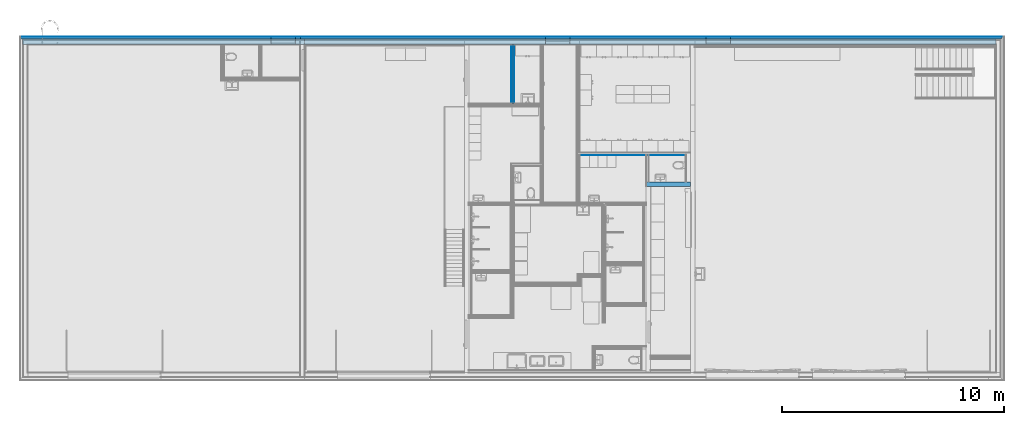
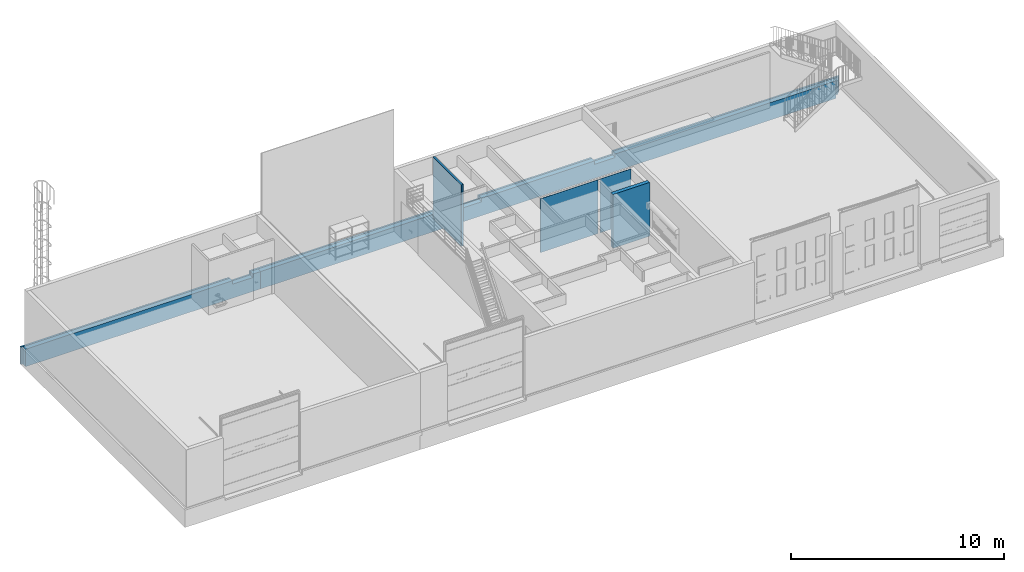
# One storey, part 18 of 67: 11 building element parts, 5 elements without a shape of their own.
"""IFC4 building model written with IfcOpenShell, lengths in millimetres."""

import ifcopenshell
import ifcopenshell.guid

model = None  # the IFC model being written
_history = None  # IfcOwnerHistory: only IFC2X3 demands one
_inside = {}  # id of a spatial element -> (the spatial element, [elements in it])
_under = {}  # id of a project, library or spatial element -> (it, [spatial elements below it])
_declared = {}  # id of a project -> (the project, [libraries it declares])
_typed = {}  # id of a type object -> (the type object, [elements of that type])
_made_of = {}  # id of a material, layer set ... -> (it, [elements and type objects made of it])


def new_model(schema):
    """Start an empty IFC model of exactly this schema.

    Asked for "IFC4X3", IfcOpenShell would pick the latest addendum, in which some entities
    have other attributes; the version numbers below select the first issue.
    IFC2X3 requires an IfcOwnerHistory on every rooted entity: one is made here for all.
    """
    global model, _history
    if schema == "IFC4X3":
        model = ifcopenshell.file(schema_version=(4, 3, 0, 0))
    else:
        model = ifcopenshell.file(schema=schema)
    _inside.clear()
    _under.clear()
    _declared.clear()
    _typed.clear()
    _made_of.clear()
    _history = None
    if model.schema == "IFC2X3":
        org = make("IfcOrganization", Name="unknown")
        user = make(
            "IfcPersonAndOrganization",
            ThePerson=make("IfcPerson", FamilyName="unknown"),
            TheOrganization=org,
        )
        app = make(
            "IfcApplication",
            ApplicationDeveloper=org,
            Version="unknown",
            ApplicationFullName="unknown",
            ApplicationIdentifier="unknown",
        )
        _history = make(
            "IfcOwnerHistory",
            OwningUser=user,
            OwningApplication=app,
            ChangeAction="ADDED",
            CreationDate=0,
        )
    return model


def make(cls, **values):
    """One entity of the class cls with the attributes given. An attribute that is None is left unset."""
    return model.create_entity(
        cls, **{name: value for name, value in values.items() if value is not None}
    )


def entity(cls, *values):
    """Any entity or typed value of the class cls, its attributes in the order of the schema. None: left unset."""
    e = model.create_entity(cls)
    for i, value in enumerate(values):
        if value is not None:
            e[i] = value
    return e


def rooted(cls, **values):
    """An entity with a GlobalId (a new one), such as an element, a storey or a relation."""
    return make(cls, GlobalId=ifcopenshell.guid.new(), OwnerHistory=_history, **values)


def si_unit(unit_type, name, prefix=None):
    """IfcSIUnit, for example si_unit("LENGTHUNIT", "METRE", prefix="MILLI")."""
    return make("IfcSIUnit", UnitType=unit_type, Prefix=prefix, Name=name)


def converted_unit(unit_type, name, factor, base, dimensions=None, offset=None):
    """IfcConversionBasedUnit, such as the inch: factor (a typed value) times the base unit."""
    return make(
        "IfcConversionBasedUnit"
        if offset is None
        else "IfcConversionBasedUnitWithOffset",
        ConversionOffset=offset,
        Dimensions=None
        if dimensions is None
        else entity("IfcDimensionalExponents", *dimensions),
        UnitType=unit_type,
        Name=name,
        ConversionFactor=make(
            "IfcMeasureWithUnit", ValueComponent=factor, UnitComponent=base
        ),
    )


def assignment(units):
    """IfcUnitAssignment: the units of a project."""
    return None if units is None else make("IfcUnitAssignment", Units=units)


def point(xyz):
    """IfcCartesianPoint."""
    return None if xyz is None else make("IfcCartesianPoint", Coordinates=xyz)


def direction(xyz):
    """IfcDirection."""
    return None if xyz is None else make("IfcDirection", DirectionRatios=xyz)


def frame(location, z_axis=None, x_axis=None):
    """IfcAxis2Placement3D, a coordinate frame: its origin and axes. An axis left out is left unset."""
    return make(
        "IfcAxis2Placement3D",
        Location=point(location),
        Axis=direction(z_axis),
        RefDirection=direction(x_axis),
    )


def origin():
    """The frame at (0, 0, 0) with its axes left unset."""
    return frame((0.0, 0.0, 0.0))


def place(relative_to, where):
    """IfcLocalPlacement: puts the frame where relative to a parent placement (None: the world)."""
    return make(
        "IfcLocalPlacement", PlacementRelTo=relative_to, RelativePlacement=where
    )


def context(
    kind, dimensions, precision=None, world=None, true_north=None, identifier=None
):
    """IfcGeometricRepresentationContext, for example the 3D "Model" context."""
    return make(
        "IfcGeometricRepresentationContext",
        ContextIdentifier=identifier,
        ContextType=kind,
        CoordinateSpaceDimension=dimensions,
        Precision=precision,
        WorldCoordinateSystem=world,
        TrueNorth=true_north,
    )


def subcontext(parent, identifier, kind, view, scale=None):
    """IfcGeometricRepresentationSubContext, for example "Body" below "Model"."""
    return make(
        "IfcGeometricRepresentationSubContext",
        ContextIdentifier=identifier,
        ContextType=kind,
        ParentContext=parent,
        TargetScale=scale,
        TargetView=view,
    )


def project(units=None, contexts=None):
    """IfcProject with its units and contexts."""
    return rooted(
        "IfcProject",
        Name="project",
        RepresentationContexts=contexts,
        UnitsInContext=assignment(units),
    )


def spatial(cls, under=None, at=None, **own):
    """A site, building, storey or space (cls), placed at a placement, below another one or the project."""
    s = rooted(cls, ObjectPlacement=at, **own)
    if under is not None:
        _under.setdefault(under.id(), (under, []))[1].append(s)
    return s


def point_list(points):
    """IfcCartesianPointList2D or 3D."""
    cls = (
        "IfcCartesianPointList2D" if len(points[0]) == 2 else "IfcCartesianPointList3D"
    )
    return make(cls, CoordList=points)


def polygons(points, faces, closed=None, point_numbers=None):
    """IfcPolygonalFaceSet: a face is its outer loop, then its inner loops; points numbered from 1."""
    made = []
    for loops in faces:
        if len(loops) == 1:
            made.append(make("IfcIndexedPolygonalFace", CoordIndex=loops[0]))
        else:
            made.append(
                make(
                    "IfcIndexedPolygonalFaceWithVoids",
                    CoordIndex=loops[0],
                    InnerCoordIndices=loops[1:],
                )
            )
    return make(
        "IfcPolygonalFaceSet",
        Coordinates=point_list(points),
        Closed=closed,
        Faces=made,
        PnIndex=point_numbers,
    )


def shape(context_of_items, identifier, shape_type, items):
    """IfcShapeRepresentation: the items that make up one representation, for example the "Body"."""
    return make(
        "IfcShapeRepresentation",
        ContextOfItems=context_of_items,
        RepresentationIdentifier=identifier,
        RepresentationType=shape_type,
        Items=items,
    )


def material(Name=None, Category=None):
    """IfcMaterial."""
    return make("IfcMaterial", Name=Name, Category=Category)


def made_of(thing, what):
    """Note that an element or type object is made of a material, layer set ...; save() writes the relation."""
    if what is not None:
        _made_of.setdefault(what.id(), (what, []))[1].append(thing)
    return thing


def type_object(cls, material=None, **own):
    """A type object (cls), such as IfcWallType, which elements share."""
    return made_of(rooted(cls, **own), material)


def element(
    cls,
    number,
    at=None,
    inside=None,
    cuts=None,
    type_object=None,
    material=None,
    context=None,
    identifier="Body",
    shape_type=None,
    held_by="IfcProductDefinitionShape",
    body=None,
    shapes=None,
    **own,
):
    """One element of the class cls, such as IfcWall. Its Tag is "e" and its number.

    at: its placement. inside: the storey or other place that contains it. cuts: it is an
    opening in that element (IfcRelVoidsElement). A single representation is given by context,
    identifier, shape_type and body (its items); several are given by shapes. held_by: the class
    of the entity that holds the representations. save() writes the other relations.
    """
    e = rooted(cls, Tag="e%d" % number, ObjectPlacement=at, **own)
    if body is not None:
        shapes = [shape(context, identifier, shape_type, body)]
    if shapes is not None:
        e.Representation = make(held_by, Representations=shapes)
    if inside is not None:
        _inside.setdefault(inside.id(), (inside, []))[1].append(e)
    if cuts is not None:
        rooted(
            "IfcRelVoidsElement", RelatingBuildingElement=cuts, RelatedOpeningElement=e
        )
    if type_object is not None:
        _typed.setdefault(type_object.id(), (type_object, []))[1].append(e)
    return made_of(e, material)


def aggregate(whole, parts):
    """IfcRelAggregates: a whole, such as a stair, and the parts it consists of."""
    return rooted("IfcRelAggregates", RelatingObject=whole, RelatedObjects=parts)


def save(model, path):
    """Write the relations noted so far, then the file.

    IfcRelAggregates (storeys below a building ...), IfcRelContainedInSpatialStructure (elements
    in a storey), IfcRelDefinesByType, IfcRelAssociatesMaterial and IfcRelDeclares: one each for
    every whole, place, type object, material and project.
    """
    for whole, parts in _under.values():
        aggregate(whole, parts)
    for where, things in _inside.values():
        rooted(
            "IfcRelContainedInSpatialStructure",
            RelatedElements=things,
            RelatingStructure=where,
        )
    for kind, things in _typed.values():
        rooted("IfcRelDefinesByType", RelatedObjects=things, RelatingType=kind)
    for what, things in _made_of.values():
        rooted("IfcRelAssociatesMaterial", RelatedObjects=things, RelatingMaterial=what)
    for by, libraries in _declared.values():
        rooted("IfcRelDeclares", RelatingContext=by, RelatedDefinitions=libraries)
    model.write(path)


model = new_model("IFC4")

# Units and contexts
model_context = context("Model", 3, precision=0.01, world=origin(), true_north=direction((0.0, 1.0)))
body_context = subcontext(model_context, "Body", "Model", "MODEL_VIEW")
ifc_project = project(units=[si_unit("LENGTHUNIT", "METRE", prefix="MILLI"), si_unit("AREAUNIT", "SQUARE_METRE"), si_unit("VOLUMEUNIT", "CUBIC_METRE"), converted_unit("PLANEANGLEUNIT", "DEGREE", entity("IfcPlaneAngleMeasure", 0.017453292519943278), si_unit("PLANEANGLEUNIT", "RADIAN"), dimensions=[0, 0, 0, 0, 0, 0, 0])], contexts=[model_context])

# Site, building, storey
site_placement = place(None, origin())
site = spatial("IfcSite", under=ifc_project, at=site_placement, Name="Tomtens navn", CompositionType="ELEMENT")
building_placement = place(site_placement, origin())
building = spatial("IfcBuilding", under=site, at=building_placement, Name="Byggets navn", CompositionType="ELEMENT")
storey_placement = place(building_placement, origin())
storey = spatial("IfcBuildingStorey", under=building, at=storey_placement, Name="Level 01", CompositionType="ELEMENT", Elevation=2.1993652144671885e-25)

# Wall, building element part
wall_type_1 = type_object("IfcWallType", Name="Basic Wall:IV03 Gips Stender Forestia 120mm", PredefinedType="STANDARD")
wall_1_placement = place(storey_placement, frame((68411.85352810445, 17930.966456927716, 0.0), z_axis=(0.0, 0.0, 1.0), x_axis=(-1.0, 0.0, 0.0)))
wall_1 = element("IfcWall", 1, at=wall_1_placement, inside=storey, type_object=wall_type_1, Name="Basic Wall:IV03 Gips Stender Forestia 120mm", PredefinedType="NOTDEFINED")
ifc_material_1 = material(Name="Gipsplater", Category="NOR ^ Gips")
building_element_part_1_placement = place(wall_1_placement, frame((4917.0, 60.5, 0.0)))
building_element_part_1 = element("IfcBuildingElementPart", 2, at=building_element_part_1_placement, material=ifc_material_1, Name="Gipsplater", context=body_context, shape_type="Tessellation", body=[
    polygons([(-4.845183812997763e-12, -12.999999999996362, 7.331217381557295e-26), (-4.845183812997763e-12, -12.999999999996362, 3087.999999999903), (-4916.99999999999, -12.999999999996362, 3087.999999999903), (-4916.99999999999, -12.999999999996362, 7.331217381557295e-26), (-3235.9999999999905, -12.999999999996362, 7.331217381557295e-26), (-3235.9999999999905, -12.999999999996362, 3079.9999999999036), (-3141.000000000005, -12.999999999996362, 3079.9999999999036), (-3141.000000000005, -12.999999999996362, 7.331217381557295e-26), (-4916.99999999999, 0.0, 2.1993652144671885e-25), (-4916.99999999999, 0.0, 3087.999999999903), (-4.841661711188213e-12, 3.637978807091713e-12, 3087.999999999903), (-4.841661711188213e-12, 3.637978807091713e-12, 3079.9999999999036), (-4.841661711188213e-12, 3.637978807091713e-12, 2.1993652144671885e-25), (-120.99999999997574, 3.637978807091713e-12, 2.1993652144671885e-25), (-3127.9999999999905, 0.0, 2.1993652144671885e-25), (-3141.000000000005, 0.0, 2.1993652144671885e-25), (-3141.000000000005, 0.0, 3079.9999999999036), (-3235.9999999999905, 0.0, 3079.9999999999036), (-3235.9999999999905, 0.0, 2.1993652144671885e-25), (-3248.9999999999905, 0.0, 2.1993652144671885e-25)], [[[1, 2, 3, 4, 5, 6, 7, 8]], [[9, 10, 11, 12, 13, 14, 15, 16, 17, 18, 19, 20]], [[9, 20, 19, 5, 4]], [[3, 2, 11, 10]], [[4, 3, 10, 9]], [[2, 1, 13, 12, 11]], [[7, 17, 16, 8]], [[17, 7, 6, 18]], [[18, 6, 5, 19]], [[14, 13, 1, 8, 16, 15]]], closed=True),
])
aggregate(wall_1, [building_element_part_1])

# Wall, building element parts
wall_type_2 = type_object("IfcWallType", Name="Basic Wall:RIB YV-Betong_250mm+100iso", PredefinedType="STANDARD")
wall_2_placement = place(storey_placement, frame((82422.85352810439, 23037.466456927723, -800.0), z_axis=(0.0, 0.0, 1.0), x_axis=(-1.0, 0.0, 0.0)))
wall_2 = element("IfcWall", 3, at=wall_2_placement, inside=storey, type_object=wall_type_2, Name="Basic Wall:RIB YV-Betong_250mm+100iso", PredefinedType="NOTDEFINED")
ifc_material_2 = material(Name="NO_Maling - mørk grå", Category="Overflatebehandling")
building_element_part_2_placement = place(wall_2_placement, frame((31410.0, -174.0, 0.0)))
building_element_part_2 = element("IfcBuildingElementPart", 4, at=building_element_part_2_placement, material=ifc_material_2, Name="NO_Maling - mørk grå", context=body_context, shape_type="Tessellation", body=[
    polygons([(-18310.000000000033, 3.637978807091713e-12, 800.0), (-19420.00000000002, 3.637978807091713e-12, 800.0), (-19420.00000000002, -1.999999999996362, 800.0), (-18310.000000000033, -1.999999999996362, 800.0), (-200.0000000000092, -1.999999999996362, 0.0), (-31759.99999999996, -1.999999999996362, 0.0), (-31759.99999999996, 3.637978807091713e-12, 0.0), (-200.0000000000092, 3.637978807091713e-12, 0.0), (-200.0000000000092, 3.637978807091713e-12, 800.0), (-200.0000000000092, -1.999999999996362, 800.0), (-31759.99999999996, 3.637978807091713e-12, 800.0), (-31759.99999999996, 3.637978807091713e-12, 1000.0000000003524), (-19420.00000000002, 3.637978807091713e-12, 1000.0000000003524), (-18310.000000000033, 3.637978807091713e-12, 1000.0000000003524), (-12170.000000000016, 3.637978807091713e-12, 1000.0000000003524), (-12170.000000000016, 3.637978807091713e-12, 800.0), (-11060.000000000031, 3.637978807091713e-12, 800.0), (-11060.000000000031, 3.637978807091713e-12, 1000.0000000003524), (-1.6490921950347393e-11, 3.637978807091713e-12, 1000.0000000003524), (-1.6490921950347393e-11, 3.637978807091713e-12, 800.0), (-1.64910890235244e-11, -1.999999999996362, 800.0), (-1.64910890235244e-11, -1.999999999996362, 1000.0000000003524), (-11060.000000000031, -2.0, 1000.0000000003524), (-11060.000000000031, -2.0, 800.0), (-12170.000000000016, -2.0, 800.0), (-12170.000000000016, -2.0, 1000.0000000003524), (-18310.000000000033, -1.999999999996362, 1000.0000000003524), (-19420.00000000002, -1.999999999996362, 1000.0000000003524), (-31759.99999999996, -1.999999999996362, 1000.0000000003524), (-31759.99999999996, -1.999999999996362, 800.0)], [[[1, 2, 3, 4]], [[5, 6, 7, 8]], [[5, 8, 9, 10]], [[8, 7, 11, 12, 13, 2, 1, 14, 15, 16, 17, 18, 19, 20, 9]], [[6, 5, 10, 21, 22, 23, 24, 25, 26, 27, 4, 3, 28, 29, 30]], [[6, 30, 29, 12, 11, 7]], [[20, 21, 10, 9]], [[23, 22, 19, 18]], [[24, 23, 18, 17]], [[26, 25, 16, 15]], [[27, 26, 15, 14]], [[4, 27, 14, 1]], [[28, 3, 2, 13]], [[29, 28, 13, 12]], [[21, 20, 19, 22]], [[17, 16, 25, 24]]], closed=True),
])
ifc_material_3 = material(Name="NO_Isolasjon - Fast", Category="Isolasjon")
building_element_part_3_placement = place(wall_2_placement, frame((31408.0, -74.0, 0.0)))
building_element_part_3 = element("IfcBuildingElementPart", 5, at=building_element_part_3_placement, material=ifc_material_3, Name="NO_Isolasjon - Fast", context=body_context, shape_type="Tessellation", body=[
    polygons([(-18308.00000000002, 3.637978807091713e-12, 800.0), (-19418.00000000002, 3.637978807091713e-12, 800.0), (-19418.00000000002, -99.99999999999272, 800.0), (-18308.000000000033, -99.99999999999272, 800.0), (-31657.999999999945, 3.637978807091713e-12, 0.0), (-198.0000000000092, 3.637978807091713e-12, 0.0), (-198.0000000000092, -99.99999999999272, 0.0), (-31657.999999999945, -99.99999999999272, 0.0), (-198.0000000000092, 3.637978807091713e-12, 800.0), (-198.00000000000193, -99.99999999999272, 800.0), (-31657.999999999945, 3.637978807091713e-12, 800.0), (-31657.999999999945, 3.637978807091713e-12, 1000.0000000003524), (-19418.00000000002, 3.637978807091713e-12, 1000.0000000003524), (-18308.00000000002, 3.637978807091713e-12, 1000.0000000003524), (-12168.000000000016, 3.637978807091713e-12, 1000.0000000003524), (-12168.000000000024, 3.637978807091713e-12, 800.0), (-11058.000000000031, 3.637978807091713e-12, 800.0), (-11058.000000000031, 3.637978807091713e-12, 1000.0000000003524), (-9.206610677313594e-12, 3.637978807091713e-12, 1000.0000000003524), (-9.206610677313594e-12, 3.637978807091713e-12, 800.0), (-9.214964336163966e-12, -99.99999999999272, 800.0), (-9.214964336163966e-12, -99.99999999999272, 1000.0000000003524), (-11058.000000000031, -99.99999999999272, 1000.0000000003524), (-11058.000000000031, -99.99999999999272, 800.0), (-12168.000000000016, -99.99999999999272, 800.0), (-12168.000000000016, -99.99999999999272, 1000.0000000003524), (-18308.000000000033, -99.99999999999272, 1000.0000000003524), (-19418.00000000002, -99.99999999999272, 1000.0000000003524), (-31657.999999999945, -99.99999999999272, 1000.0000000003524), (-31657.999999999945, -99.99999999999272, 800.0)], [[[1, 2, 3, 4]], [[5, 6, 7, 8]], [[7, 6, 9, 10]], [[6, 5, 11, 12, 13, 2, 1, 14, 15, 16, 17, 18, 19, 20, 9]], [[8, 7, 10, 21, 22, 23, 24, 25, 26, 27, 4, 3, 28, 29, 30]], [[5, 8, 30, 29, 12, 11]], [[20, 21, 10, 9]], [[22, 19, 18, 23]], [[23, 18, 17, 24]], [[16, 15, 26, 25]], [[13, 12, 29, 28]], [[14, 1, 4, 27]], [[2, 13, 28, 3]], [[15, 14, 27, 26]], [[21, 20, 19, 22]], [[17, 16, 25, 24]]], closed=True),
])
ifc_material_4 = material(Name="231_Vegg 250mm_Betong", Category="NOR ^ Betong")
building_element_part_4_placement = place(wall_2_placement, frame((31212.0, 176.0, 0.0)))
building_element_part_4 = element("IfcBuildingElementPart", 6, at=building_element_part_4_placement, material=ifc_material_4, Name="231_Vegg 250mm_Betong", context=body_context, shape_type="Tessellation", body=[
    polygons([(-19222.00000000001, -249.99999999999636, 800.0), (-18112.00000000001, -249.99999999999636, 800.0), (-18112.000000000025, 3.637978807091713e-12, 800.0), (-19221.999999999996, 3.637978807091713e-12, 800.0), (-31211.999999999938, -249.99999999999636, 0.0), (-2.0000000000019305, -249.99999999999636, 0.0), (-2.0000000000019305, -249.99999999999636, 800.0), (-1.9306530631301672e-12, -249.99999999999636, 800.0), (-1.9306530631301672e-12, -249.99999999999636, 1000.0000000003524), (-10862.000000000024, -249.99999999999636, 1000.0000000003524), (-10862.000000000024, -249.99999999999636, 800.0), (-11972.000000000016, -249.99999999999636, 800.0), (-11972.00000000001, -249.99999999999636, 1000.0000000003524), (-18112.00000000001, -249.99999999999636, 1000.0000000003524), (-19222.00000000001, -249.99999999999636, 1000.0000000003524), (-31211.999999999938, -249.99999999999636, 1000.0000000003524), (-31211.999999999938, -249.99999999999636, 800.0), (-31211.999999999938, 3.637978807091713e-12, 0.0), (-2.0000000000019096, 3.637978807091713e-12, 0.0), (-2.0000000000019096, 3.637978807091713e-12, 800.0), (-31211.999999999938, 3.637978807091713e-12, 1000.0000000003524), (-31211.999999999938, 3.637978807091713e-12, 800.0), (-19222.00000000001, 3.637978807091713e-12, 1000.0000000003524), (-18112.000000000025, 3.637978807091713e-12, 1000.0000000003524), (-11972.00000000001, 0.0, 1000.0000000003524), (-11972.00000000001, 0.0, 800.0), (-10862.000000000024, 0.0, 800.0), (-10862.000000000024, 0.0, 1000.0000000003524), (-1.9097689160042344e-12, 3.637978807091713e-12, 1000.0000000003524), (-1.9097689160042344e-12, 3.637978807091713e-12, 800.0)], [[[1, 2, 3, 4]], [[5, 6, 7, 8, 9, 10, 11, 12, 13, 14, 2, 1, 15, 16, 17]], [[6, 5, 18, 19]], [[7, 6, 19, 20]], [[5, 17, 16, 21, 22, 18]], [[19, 18, 22, 21, 23, 4, 3, 24, 25, 26, 27, 28, 29, 30, 20]], [[30, 8, 7, 20]], [[10, 9, 29, 28]], [[11, 10, 28, 27]], [[13, 12, 26, 25]], [[14, 13, 25, 24]], [[2, 14, 24, 3]], [[15, 1, 4, 23]], [[16, 15, 23, 21]], [[8, 30, 29, 9]], [[12, 11, 27, 26]]], closed=True),
])
aggregate(wall_2, [building_element_part_2, building_element_part_3, building_element_part_4])

# Wall, building element part
wall_type_3 = type_object("IfcWallType", Name="Basic Wall:IV21 Betong 200", PredefinedType="STANDARD")
wall_3_placement = place(storey_placement, frame((68622.85352810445, 16570.466456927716, 0.0), z_axis=(0.0, 0.0, 1.0), x_axis=(-1.0, 0.0, 0.0)))
wall_3 = element("IfcWall", 7, at=wall_3_placement, inside=storey, type_object=wall_type_3, Name="Basic Wall:IV21 Betong 200", PredefinedType="NOTDEFINED")
ifc_material_5 = material(Name="NO_Betong - Plasstøpt", Category="Betong")
building_element_part_5_placement = place(wall_3_placement, frame((2000.0, 100.0, 0.0)))
building_element_part_5 = element("IfcBuildingElementPart", 8, at=building_element_part_5_placement, material=ifc_material_5, Name="NO_Betong - Plasstøpt", context=body_context, shape_type="Tessellation", body=[
    polygons([(-1999.9999999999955, -200.0, 2.1993652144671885e-25), (-1788.9999999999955, -200.0, 2.1993652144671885e-25), (-120.99999999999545, -199.99999999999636, 2.1993652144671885e-25), (-13.000000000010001, -199.99999999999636, 2.1993652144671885e-25), (-13.000000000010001, -199.99999999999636, 3079.9999999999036), (4.551554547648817e-12, -199.99999999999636, 3079.9999999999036), (4.551554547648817e-12, -199.99999999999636, 3087.999999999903), (-1788.9999999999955, -200.0, 3087.999999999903), (-1999.9999999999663, -200.0, 3087.999999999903), (-1999.9999999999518, -200.0, 3079.9999999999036), (-1999.9999999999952, 0.0, 2.1993652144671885e-25), (-199.99999999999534, 0.0, 2.1993652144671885e-25), (-13.00000000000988, 3.637978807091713e-12, 2.1993652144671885e-25), (-1999.9999999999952, 0.0, 3087.999999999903), (-1999.9999999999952, 0.0, 3079.9999999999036), (-199.99999999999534, 0.0, 3087.999999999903), (4.671531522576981e-12, 3.637978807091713e-12, 3087.999999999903), (4.671531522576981e-12, 3.637978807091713e-12, 3079.9999999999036), (-13.00000000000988, 3.637978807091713e-12, 3079.9999999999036)], [[[1, 2, 3, 4, 5, 6, 7, 8, 9, 10]], [[2, 1, 11, 12, 13, 4, 3]], [[1, 10, 9, 14, 15, 11]], [[11, 15, 14, 16, 17, 18, 19, 13, 12]], [[5, 4, 13, 19]], [[18, 6, 5, 19]], [[6, 18, 17, 7]], [[8, 7, 17, 16, 14, 9]]], closed=True),
])
aggregate(wall_3, [building_element_part_5])

# Wall, building element parts
wall_type_4 = type_object("IfcWallType", Name="Basic Wall:IV01 - Gipsx2 Stender Gipsx2-147mm", PredefinedType="STANDARD")
wall_4_placement = place(storey_placement, frame((60604.85352810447, 20201.466456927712, 0.0), z_axis=(0.0, 0.0, 1.0), x_axis=(0.0, 1.0, 0.0)))
wall_4 = element("IfcWall", 9, at=wall_4_placement, inside=storey, type_object=wall_type_4, Name="Basic Wall:IV01 - Gipsx2 Stender Gipsx2-147mm", PredefinedType="NOTDEFINED")
building_element_part_6_placement = place(wall_4_placement, frame((-13.0, -47.49999999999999, 0.0)))
building_element_part_6 = element("IfcBuildingElementPart", 10, at=building_element_part_6_placement, material=ifc_material_1, Name="Gipsplater", context=body_context, shape_type="Tessellation", body=[
    polygons([(2673.0000000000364, 7.275957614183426e-12, 7.331217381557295e-26), (0.0, 7.275957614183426e-12, 7.331217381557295e-26), (0.0, 0.0, 200.0000000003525), (0.0, 7.275957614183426e-12, 3087.999999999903), (13.0, 7.275957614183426e-12, 3087.999999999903), (13.0, 7.275957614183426e-12, 3499.999999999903), (2673.0000000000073, 7.275957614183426e-12, 3499.999999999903), (2673.0000000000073, 0.0, 3087.999999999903), (2673.0000000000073, 0.0, 200.0000000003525), (2673.0000000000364, -13.000000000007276, 7.331217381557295e-26), (0.0, -13.000000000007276, 7.331217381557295e-26), (2673.0000000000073, -13.000000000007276, 3499.999999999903), (2673.0000000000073, -13.000000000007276, 3087.9999999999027), (2673.0000000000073, -13.000000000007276, 200.0000000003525), (13.0, -13.000000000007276, 3499.999999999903), (13.0, -13.000000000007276, 3087.9999999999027), (0.0, -13.000000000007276, 3087.999999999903), (0.0, -13.000000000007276, 200.0000000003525)], [[[1, 2, 3, 4, 5, 6, 7, 8, 9]], [[2, 1, 10, 11]], [[1, 9, 8, 7, 12, 13, 14, 10]], [[11, 10, 14, 13, 12, 15, 16, 17, 18]], [[2, 11, 18, 17, 4, 3]], [[4, 17, 16, 5]], [[6, 5, 16, 15]], [[7, 6, 15, 12]]], closed=True),
])
ifc_material_6 = material(Name="Stender", Category="Unassigned")
building_element_part_7_placement = place(wall_4_placement, frame((-26.0, 47.49999999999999, 0.0)))
building_element_part_7 = element("IfcBuildingElementPart", 11, at=building_element_part_7_placement, material=ifc_material_6, Name="Stender", context=body_context, shape_type="Tessellation", body=[
    polygons([(0.0, -94.99999999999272, 7.331217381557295e-26), (2686.0000000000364, -94.99999999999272, 7.331217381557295e-26), (2686.0000000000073, -94.99999999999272, 200.0000000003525), (2688.0000000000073, -94.99999999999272, 200.0000000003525), (2688.0000000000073, -95.0, 3087.999999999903), (2688.0000000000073, -94.99999999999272, 3499.999999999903), (26.0, -94.99999999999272, 3499.999999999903), (26.0, -94.99999999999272, 3087.9999999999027), (0.0, -94.99999999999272, 3087.999999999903), (0.0, -95.0, 200.0000000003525), (0.0, -1.4551915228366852e-11, 7.331217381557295e-26), (2686.0000000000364, -1.4551915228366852e-11, 7.331217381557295e-26), (2686.0000000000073, -1.4551915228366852e-11, 200.0000000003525), (0.0, 0.0, 200.0000000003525), (0.0, -1.4551915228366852e-11, 3087.999999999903), (26.0, -1.4551915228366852e-11, 3087.999999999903), (26.0, -1.4551915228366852e-11, 3499.999999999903), (2688.0000000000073, -1.4551915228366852e-11, 3499.999999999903), (2688.0000000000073, 0.0, 3087.999999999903), (2688.0000000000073, -1.4551915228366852e-11, 200.0000000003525)], [[[1, 2, 3, 4, 5, 6, 7, 8, 9, 10]], [[2, 1, 11, 12]], [[3, 2, 12, 13]], [[12, 11, 14, 15, 16, 17, 18, 19, 20, 13]], [[11, 1, 10, 9, 15, 14]], [[15, 9, 8, 16]], [[20, 4, 3, 13]], [[8, 7, 17, 16]], [[7, 6, 18, 17]], [[4, 20, 19, 18, 6, 5]]], closed=True),
])
building_element_part_8_placement = place(wall_4_placement, frame((-13.0, 60.50000000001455, 0.0)))
building_element_part_8 = element("IfcBuildingElementPart", 12, at=building_element_part_8_placement, material=ifc_material_1, Name="Gipsplater", context=body_context, shape_type="Tessellation", body=[
    polygons([(2673.0000000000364, -1.4551915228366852e-11, 7.331217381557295e-26), (0.0, -1.4551915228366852e-11, 7.331217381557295e-26), (0.0, -1.4551915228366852e-11, 200.0000000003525), (0.0, -1.4551915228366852e-11, 3087.999999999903), (13.0, -1.4551915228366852e-11, 3087.999999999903), (13.0, -1.4551915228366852e-11, 3499.999999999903), (2673.0000000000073, -1.4551915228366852e-11, 3499.999999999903), (2673.0000000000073, -1.4551915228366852e-11, 3087.999999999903), (2673.0000000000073, -1.4551915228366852e-11, 200.0000000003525), (2673.0000000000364, -13.000000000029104, 7.331217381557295e-26), (0.0, -13.000000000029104, 7.331217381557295e-26), (2673.0000000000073, -13.000000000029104, 3499.999999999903), (2673.0000000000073, -13.000000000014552, 3087.9999999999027), (2673.0000000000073, -13.000000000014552, 200.0000000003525), (13.0, -13.000000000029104, 3499.999999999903), (13.0, -13.000000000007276, 3087.9999999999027), (0.0, -13.000000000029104, 3087.999999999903), (0.0, -13.000000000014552, 200.0000000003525)], [[[1, 2, 3, 4, 5, 6, 7, 8, 9]], [[2, 1, 10, 11]], [[1, 9, 8, 7, 12, 13, 14, 10]], [[11, 10, 14, 13, 12, 15, 16, 17, 18]], [[2, 11, 18, 17, 4, 3]], [[4, 17, 16, 5]], [[6, 5, 16, 15]], [[7, 6, 15, 12]]], closed=True),
])
aggregate(wall_4, [building_element_part_6, building_element_part_7, building_element_part_8])

wall_5_placement = place(storey_placement, frame((70438.85352810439, 23037.46645692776, -800.0), z_axis=(0.0, 0.0, 1.0), x_axis=(-1.0, 0.0, 0.0)))
wall_5 = element("IfcWall", 13, at=wall_5_placement, inside=storey, type_object=wall_type_2, Name="Basic Wall:RIB YV-Betong_250mm+100iso", PredefinedType="NOTDEFINED")
building_element_part_9_placement = place(wall_5_placement, frame((32078.0, -174.0, 0.0)))
building_element_part_9 = element("IfcBuildingElementPart", 14, at=building_element_part_9_placement, material=ifc_material_2, Name="NO_Maling - mørk grå", context=body_context, shape_type="Tessellation", body=[
    polygons([(-1.939173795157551e-12, -1.999999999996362, 0.0), (-32077.999999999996, -1.999999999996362, 0.0), (-32077.999999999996, 3.637978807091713e-12, 0.0), (-1.9390067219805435e-12, 3.637978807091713e-12, 0.0), (-11322.000000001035, -1.999999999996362, 1000.0000000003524), (-1.939173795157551e-12, -1.999999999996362, 1000.0000000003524), (-1.9390067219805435e-12, 3.637978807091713e-12, 1000.0000000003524), (-11322.000000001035, 3.637978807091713e-12, 1000.0000000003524), (-32077.999999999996, -1.999999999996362, 1000.0000000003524), (-32077.999999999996, 3.637978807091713e-12, 1000.0000000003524), (-11322.000000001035, -2.0, 800.0), (-11322.000000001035, 3.637978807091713e-12, 800.0), (-12432.00000000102, -1.999999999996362, 1000.0000000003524), (-12432.00000000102, -2.0, 800.0), (-12432.00000000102, 3.637978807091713e-12, 800.0), (-12432.00000000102, 3.637978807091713e-12, 1000.0000000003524), (-32072.00000000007, -1.999999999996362, 1000.0000000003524), (-32072.00000000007, -1.999999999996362, 800.0), (-32072.00000000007, 3.637978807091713e-12, 800.0), (-32072.00000000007, 3.637978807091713e-12, 1000.0000000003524), (-30962.000000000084, -1.999999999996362, 800.0), (-30962.000000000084, -1.999999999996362, 1000.0000000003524), (-30962.000000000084, 3.637978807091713e-12, 1000.0000000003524), (-30962.000000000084, 3.637978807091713e-12, 800.0), (-23712.000000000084, -2.0, 800.0), (-23712.000000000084, -2.0, 1000.0000000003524), (-23712.000000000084, 0.0, 1000.0000000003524), (-23712.000000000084, 0.0, 800.0), (-24822.00000000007, -2.0, 1000.0000000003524), (-24822.00000000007, -2.0, 800.0), (-24822.00000000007, 0.0, 800.0), (-24822.00000000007, 0.0, 1000.0000000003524)], [[[1, 2, 3, 4]], [[5, 6, 7, 8]], [[2, 9, 10, 3]], [[6, 1, 4, 7]], [[11, 5, 8, 12]], [[13, 14, 15, 16]], [[14, 11, 12, 15]], [[17, 18, 19, 20]], [[21, 22, 23, 24]], [[18, 21, 24, 19]], [[25, 26, 27, 28]], [[29, 30, 31, 32]], [[30, 25, 28, 31]], [[26, 13, 16, 27]], [[22, 29, 32, 23]], [[9, 17, 20, 10]], [[4, 3, 10, 20, 19, 24, 23, 32, 31, 28, 27, 16, 15, 12, 8, 7]], [[2, 1, 6, 5, 11, 14, 13, 26, 25, 30, 29, 22, 21, 18, 17, 9]]], closed=True),
])
building_element_part_10_placement = place(wall_5_placement, frame((32076.0, -74.0, 0.0)))
building_element_part_10 = element("IfcBuildingElementPart", 15, at=building_element_part_10_placement, material=ifc_material_3, Name="NO_Isolasjon - Fast", context=body_context, shape_type="Tessellation", body=[
    polygons([(-32075.999999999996, -100.0, 0.0), (-32075.999999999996, 0.0, 0.0), (-1.93065306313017e-12, 0.0, 0.0), (-1.9390067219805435e-12, -100.0, 0.0), (-1.9390067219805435e-12, -100.0, 1000.0000000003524), (-1.93065306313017e-12, 0.0, 1000.0000000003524), (-11320.000000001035, 0.0, 1000.0000000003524), (-11320.000000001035, -100.0, 1000.0000000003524), (-32075.999999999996, -100.0, 1000.0000000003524), (-32075.999999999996, 0.0, 1000.0000000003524), (-11320.000000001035, 0.0, 800.0), (-11320.000000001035, -100.0, 800.0), (-12430.00000000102, 0.0, 1000.0000000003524), (-12430.00000000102, -100.0, 1000.0000000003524), (-12430.00000000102, -100.0, 800.0), (-12430.00000000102, 0.0, 800.0), (-32070.00000000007, 0.0, 1000.0000000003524), (-32070.00000000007, -100.0, 1000.0000000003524), (-32070.00000000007, -100.0, 800.0), (-32070.00000000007, 0.0, 800.0), (-30960.000000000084, -100.0, 1000.0000000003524), (-30960.000000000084, 0.0, 1000.0000000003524), (-30960.000000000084, 0.0, 800.0), (-30960.000000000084, -100.0, 800.0), (-23710.000000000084, -100.00000000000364, 1000.0000000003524), (-23710.000000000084, -3.637978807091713e-12, 1000.0000000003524), (-23710.000000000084, -3.637978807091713e-12, 800.0), (-23710.000000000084, -100.00000000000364, 800.0), (-24820.000000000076, -3.637978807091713e-12, 1000.0000000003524), (-24820.00000000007, -100.00000000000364, 1000.0000000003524), (-24820.00000000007, -100.00000000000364, 800.0), (-24820.000000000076, -3.637978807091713e-12, 800.0)], [[[1, 2, 3, 4]], [[5, 6, 7, 8]], [[2, 1, 9, 10]], [[8, 7, 11, 12]], [[13, 14, 15, 16]], [[12, 11, 16, 15]], [[17, 18, 19, 20]], [[21, 22, 23, 24]], [[20, 19, 24, 23]], [[25, 26, 27, 28]], [[29, 30, 31, 32]], [[28, 27, 32, 31]], [[14, 13, 26, 25]], [[18, 17, 10, 9]], [[22, 21, 30, 29]], [[3, 2, 10, 17, 20, 23, 22, 29, 32, 27, 26, 13, 16, 11, 7, 6]], [[1, 4, 5, 8, 12, 15, 14, 25, 28, 31, 30, 21, 24, 19, 18, 9]], [[4, 3, 6, 5]]], closed=True),
])
building_element_part_11_placement = place(wall_5_placement, frame((31976.0, 176.0, 0.0)))
building_element_part_11 = element("IfcBuildingElementPart", 16, at=building_element_part_11_placement, material=ifc_material_4, Name="231_Vegg 250mm_Betong", context=body_context, shape_type="Tessellation", body=[
    polygons([(-31975.999999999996, -250.0, 0.0), (5.345304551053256e-12, -250.0, 0.0), (5.345304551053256e-12, -250.0, 1000.0000000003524), (-11220.000000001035, -250.0, 1000.0000000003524), (-11220.000000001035, -250.0, 800.0), (-12330.00000000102, -250.0, 800.0), (-12330.00000000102, -250.0, 1000.0000000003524), (-23610.000000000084, -250.00000000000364, 1000.0000000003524), (-23610.000000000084, -250.00000000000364, 800.0), (-24720.000000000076, -250.00000000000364, 800.0), (-24720.000000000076, -250.00000000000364, 1000.0000000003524), (-30860.000000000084, -250.0, 1000.0000000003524), (-30860.000000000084, -250.0, 800.0), (-31970.00000000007, -250.0, 800.0), (-31970.00000000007, -250.0, 1000.0000000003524), (-31975.999999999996, -250.0, 1000.0000000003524), (5.366188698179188e-12, 0.0, 0.0), (-249.99999999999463, 0.0, 0.0), (-31975.999999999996, -3.637978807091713e-12, 0.0), (-31975.999999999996, -3.637978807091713e-12, 1000.0000000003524), (-31970.00000000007, -3.637978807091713e-12, 1000.0000000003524), (-31970.00000000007, -3.637978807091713e-12, 800.0), (-30860.000000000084, -3.637978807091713e-12, 800.0), (-30860.000000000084, -3.637978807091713e-12, 1000.0000000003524), (-24720.00000000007, -7.275957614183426e-12, 1000.0000000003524), (-24720.00000000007, -7.275957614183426e-12, 800.0), (-23610.000000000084, -7.275957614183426e-12, 800.0), (-23610.000000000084, -7.275957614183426e-12, 1000.0000000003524), (-12330.00000000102, -7.275957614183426e-12, 1000.0000000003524), (-12330.00000000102, -7.275957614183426e-12, 800.0), (-11220.000000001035, -7.275957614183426e-12, 800.0), (-11220.000000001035, -7.275957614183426e-12, 1000.0000000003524), (-249.99999999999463, 0.0, 1000.0000000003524), (5.366188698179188e-12, 0.0, 1000.0000000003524)], [[[1, 2, 3, 4, 5, 6, 7, 8, 9, 10, 11, 12, 13, 14, 15, 16]], [[17, 18, 19, 20, 21, 22, 23, 24, 25, 26, 27, 28, 29, 30, 31, 32, 33, 34]], [[18, 17, 2, 1, 19]], [[33, 32, 4, 3, 34]], [[20, 19, 1, 16]], [[32, 31, 5, 4]], [[30, 29, 7, 6]], [[31, 30, 6, 5]], [[22, 21, 15, 14]], [[24, 23, 13, 12]], [[23, 22, 14, 13]], [[28, 27, 9, 8]], [[26, 25, 11, 10]], [[27, 26, 10, 9]], [[29, 28, 8, 7]], [[25, 24, 12, 11]], [[21, 20, 16, 15]], [[17, 34, 3, 2]]], closed=True),
])
aggregate(wall_5, [building_element_part_9, building_element_part_10, building_element_part_11])

save(model, "model.ifc")
